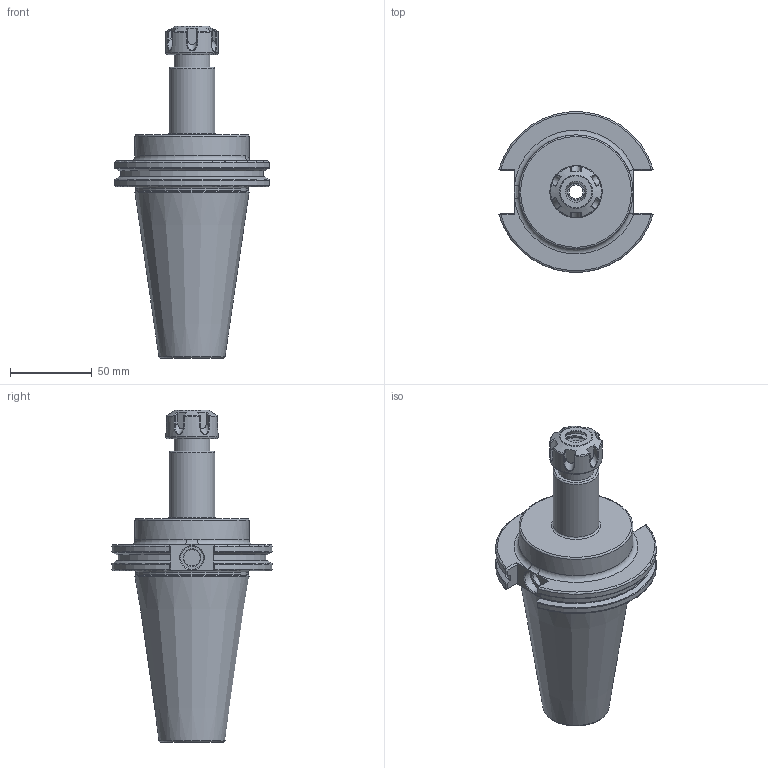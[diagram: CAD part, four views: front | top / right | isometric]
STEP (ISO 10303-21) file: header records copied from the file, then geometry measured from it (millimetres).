
FILE_DESCRIPTION(/* description */ (''),/* implementation_level */ '2;1');
FILE_NAME(/* name */ 'CAT50-ER16-4''''_asm1.prt.stp',/* time_stamp */ '2020-04-11T17:27:08+08:00',/* author */ (''),/* organization */ (''),/* preprocessor_version */ 'ST-DEVELOPER v16',/* originating_system */ 'SIEMENS PLM Software NX 10.0',/* authorisation */ '');
FILE_SCHEMA (('CONFIG_CONTROL_DESIGN'));
Length unit declared in the file: millimetre
Products named in the file (3): CAT50-ER16-4''; ER16UM压帽; CAT50-ER16-4''_asm1
Assembly tree (2 placements, depth 2):
  CAT50-ER16-4''_asm1
    ER16UM压帽
    CAT50-ER16-4''
Bounding box: 94.4 x 98.07 x 203.2 mm (x, y, z)
Volume: 406416 mm3; surface area: 59144.7 mm2
Topology: 2 solids, 2 shells, 190 faces, 471 edges, 296 vertices
Faces by surface type: plane 84, bspline 32, cylinder 30, torus 26, cone 18
Full cylindrical faces by diameter (mm): 8.5 x1, 10 x2, 10.5 x1, 12.8 x1, 14 x1, 16.7 x1, 19.5 x1, 20.45 x1, 22 x1, 22.225 x1, 22.3 x1, 26.19 x1, 28 x1, 32 x1, 69 x1, 69.85 x1
Entity records: 6719 total; most frequent: CARTESIAN_POINT 2514, ORIENTED_EDGE 830, DIRECTION 678, EDGE_CURVE 415, VERTEX_POINT 281, AXIS2_PLACEMENT_3D 268, EDGE_LOOP 246, ADVANCED_FACE 190
